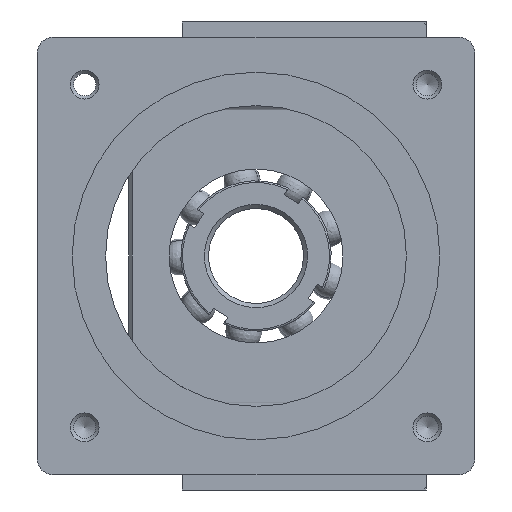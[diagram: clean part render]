
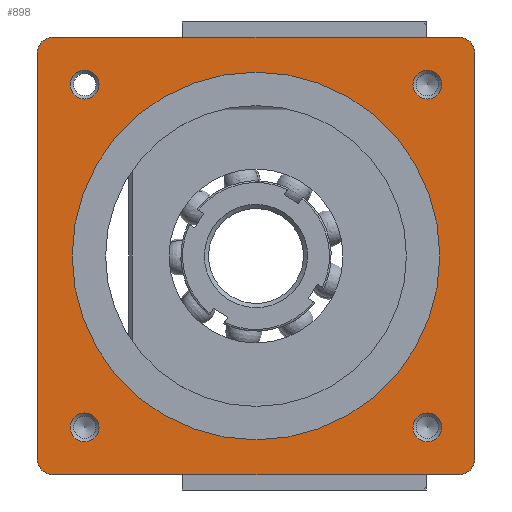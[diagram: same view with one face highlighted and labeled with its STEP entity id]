
A CAD part, left-side view. The second image highlights one B-rep face of the part: STEP entity #898.
In plain terms, the highlighted planar face has unit normal (-1, 0, 0).
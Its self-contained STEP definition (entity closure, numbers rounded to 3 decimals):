
#898=ADVANCED_FACE('',(#3671,#3673,#3675,#3677,#3679,#3681),#3683,.T.);
#3671=FACE_BOUND('',#3672,.T.);
#3672=EDGE_LOOP('',(#6000,#6001,#6002,#6003,#6004,#6005,#6006,#6007));
#3673=FACE_BOUND('',#3674,.T.);
#3674=EDGE_LOOP('',(#6008));
#3675=FACE_BOUND('',#3676,.T.);
#3676=EDGE_LOOP('',(#6009));
#3677=FACE_BOUND('',#3678,.T.);
#3678=EDGE_LOOP('',(#6010));
#3679=FACE_BOUND('',#3680,.T.);
#3680=EDGE_LOOP('',(#6011));
#3681=FACE_BOUND('',#3682,.T.);
#3682=EDGE_LOOP('',(#6012));
#3683=PLANE('',#3684);
#3684=AXIS2_PLACEMENT_3D('',#3685,#3686,#3687);
#3685=CARTESIAN_POINT('',(-22.5,131.,-70.));
#3686=DIRECTION('',(-1.,0.,0.));
#3687=DIRECTION('',(0.,-1.,0.));
#6000=ORIENTED_EDGE('',*,*,#7017,.F.);
#6001=ORIENTED_EDGE('',*,*,#6966,.T.);
#6002=ORIENTED_EDGE('',*,*,#7021,.F.);
#6003=ORIENTED_EDGE('',*,*,#7022,.F.);
#6004=ORIENTED_EDGE('',*,*,#7023,.F.);
#6005=ORIENTED_EDGE('',*,*,#6969,.T.);
#6006=ORIENTED_EDGE('',*,*,#7024,.F.);
#6007=ORIENTED_EDGE('',*,*,#7025,.T.);
#6008=ORIENTED_EDGE('',*,*,#7026,.T.);
#6009=ORIENTED_EDGE('',*,*,#7027,.T.);
#6010=ORIENTED_EDGE('',*,*,#7028,.T.);
#6011=ORIENTED_EDGE('',*,*,#7029,.T.);
#6012=ORIENTED_EDGE('',*,*,#7030,.T.);
#6966=EDGE_CURVE('',#7629,#7638,#7640,.F.);
#6969=EDGE_CURVE('',#7646,#7643,#7647,.F.);
#7017=EDGE_CURVE('',#7629,#7719,#7722,.F.);
#7021=EDGE_CURVE('',#7726,#7638,#7728,.F.);
#7022=EDGE_CURVE('',#7729,#7726,#7730,.T.);
#7023=EDGE_CURVE('',#7646,#7729,#7731,.F.);
#7024=EDGE_CURVE('',#7732,#7643,#7733,.F.);
#7025=EDGE_CURVE('',#7732,#7719,#7734,.T.);
#7026=EDGE_CURVE('',#7735,#7735,#7736,.F.);
#7027=EDGE_CURVE('',#7737,#7737,#7738,.F.);
#7028=EDGE_CURVE('',#7739,#7739,#7740,.F.);
#7029=EDGE_CURVE('',#7741,#7741,#7742,.F.);
#7030=EDGE_CURVE('',#7743,#7743,#7744,.F.);
#7629=VERTEX_POINT('',#8898);
#7638=VERTEX_POINT('',#8917);
#7640=LINE('',#8921,#8922);
#7643=VERTEX_POINT('',#8929);
#7646=VERTEX_POINT('',#8934);
#7647=LINE('',#8935,#8936);
#7719=VERTEX_POINT('',#9114);
#7722=CIRCLE('',#9122,5.);
#7726=VERTEX_POINT('',#9134);
#7728=CIRCLE('',#9138,5.);
#7729=VERTEX_POINT('',#9142);
#7730=LINE('',#9143,#9144);
#7731=CIRCLE('',#9146,5.);
#7732=VERTEX_POINT('',#9150);
#7733=CIRCLE('',#9151,5.);
#7734=LINE('',#9155,#9156);
#7735=VERTEX_POINT('',#9158);
#7736=CIRCLE('',#9159,4.323);
#7737=VERTEX_POINT('',#9163);
#7738=CIRCLE('',#9164,4.323);
#7739=VERTEX_POINT('',#9168);
#7740=CIRCLE('',#9169,55.);
#7741=VERTEX_POINT('',#9173);
#7742=CIRCLE('',#9174,4.323);
#7743=VERTEX_POINT('',#9178);
#7744=CIRCLE('',#9179,4.323);
#8898=CARTESIAN_POINT('',(-22.5,5.,65.5));
#8917=CARTESIAN_POINT('',(-22.5,126.,65.5));
#8921=CARTESIAN_POINT('',(-22.5,126.,65.5));
#8922=VECTOR('',#8923,1.);
#8923=DIRECTION('',(0.,-1.,0.));
#8929=CARTESIAN_POINT('',(-22.5,5.,-65.5));
#8934=CARTESIAN_POINT('',(-22.5,126.,-65.5));
#8935=CARTESIAN_POINT('',(-22.5,5.,-65.5));
#8936=VECTOR('',#8937,1.);
#8937=DIRECTION('',(0.,1.,0.));
#9114=CARTESIAN_POINT('',(-22.5,0.,60.5));
#9122=AXIS2_PLACEMENT_3D('',#9123,#9124,#9125);
#9123=CARTESIAN_POINT('',(-22.5,5.,60.5));
#9124=DIRECTION('',(-1.,0.,0.));
#9125=DIRECTION('',(0.,-1.,0.));
#9134=CARTESIAN_POINT('',(-22.5,131.,60.5));
#9138=AXIS2_PLACEMENT_3D('',#9139,#9140,#9141);
#9139=CARTESIAN_POINT('',(-22.5,126.,60.5));
#9140=DIRECTION('',(-1.,0.,0.));
#9141=DIRECTION('',(0.,0.,1.));
#9142=CARTESIAN_POINT('',(-22.5,131.,-60.5));
#9143=CARTESIAN_POINT('',(-22.5,131.,-60.5));
#9144=VECTOR('',#9145,1.);
#9145=DIRECTION('',(0.,0.,1.));
#9146=AXIS2_PLACEMENT_3D('',#9147,#9148,#9149);
#9147=CARTESIAN_POINT('',(-22.5,126.,-60.5));
#9148=DIRECTION('',(-1.,0.,0.));
#9149=DIRECTION('',(0.,1.,0.));
#9150=CARTESIAN_POINT('',(-22.5,0.,-60.5));
#9151=AXIS2_PLACEMENT_3D('',#9152,#9153,#9154);
#9152=CARTESIAN_POINT('',(-22.5,5.,-60.5));
#9153=DIRECTION('',(-1.,0.,0.));
#9154=DIRECTION('',(0.,0.,-1.));
#9155=CARTESIAN_POINT('',(-22.5,0.,-60.5));
#9156=VECTOR('',#9157,1.);
#9157=DIRECTION('',(0.,0.,1.));
#9158=CARTESIAN_POINT('',(-22.5,18.558,51.265));
#9159=AXIS2_PLACEMENT_3D('',#9160,#9161,#9162);
#9160=CARTESIAN_POINT('',(-22.5,14.235,51.265));
#9161=DIRECTION('',(-1.,0.,0.));
#9162=DIRECTION('',(0.,1.,0.));
#9163=CARTESIAN_POINT('',(-22.5,121.089,-51.265));
#9164=AXIS2_PLACEMENT_3D('',#9165,#9166,#9167);
#9165=CARTESIAN_POINT('',(-22.5,116.765,-51.265));
#9166=DIRECTION('',(-1.,0.,0.));
#9167=DIRECTION('',(0.,1.,0.));
#9168=CARTESIAN_POINT('',(-22.5,65.5,55.));
#9169=AXIS2_PLACEMENT_3D('',#9170,#9171,#9172);
#9170=CARTESIAN_POINT('',(-22.5,65.5,0.));
#9171=DIRECTION('',(-1.,0.,0.));
#9172=DIRECTION('',(0.,0.,1.));
#9173=CARTESIAN_POINT('',(-22.5,121.089,51.265));
#9174=AXIS2_PLACEMENT_3D('',#9175,#9176,#9177);
#9175=CARTESIAN_POINT('',(-22.5,116.765,51.265));
#9176=DIRECTION('',(-1.,0.,0.));
#9177=DIRECTION('',(0.,1.,0.));
#9178=CARTESIAN_POINT('',(-22.5,18.558,-51.265));
#9179=AXIS2_PLACEMENT_3D('',#9180,#9181,#9182);
#9180=CARTESIAN_POINT('',(-22.5,14.235,-51.265));
#9181=DIRECTION('',(-1.,0.,0.));
#9182=DIRECTION('',(0.,1.,0.));
